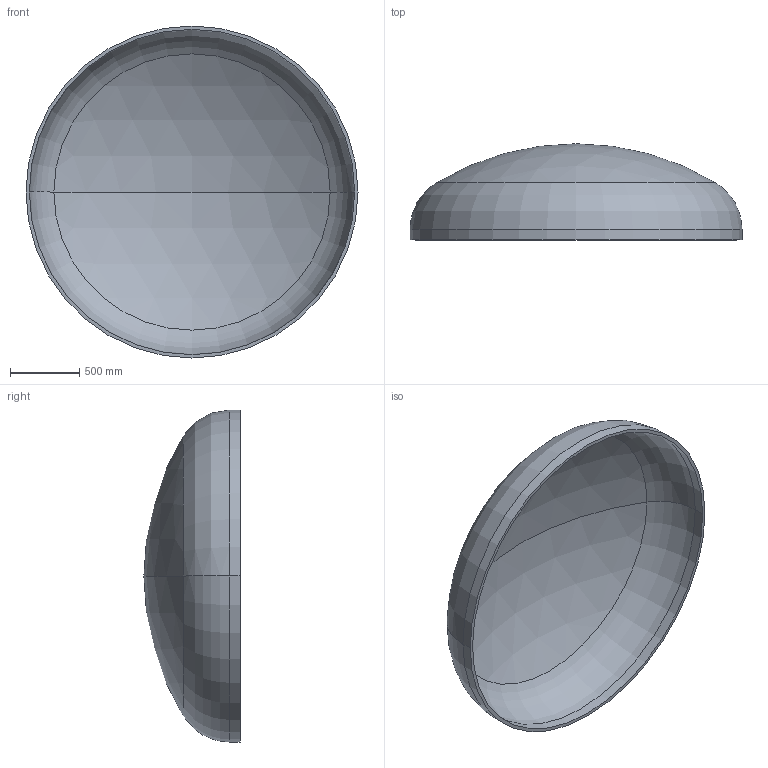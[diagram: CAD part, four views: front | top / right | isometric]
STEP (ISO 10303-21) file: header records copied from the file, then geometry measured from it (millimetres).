
FILE_DESCRIPTION (( 'STEP AP203' ), '1' );
FILE_NAME ('DIN 28013 Korbbogenform_-_Boden DIN 28013 - 2400 x 75 - I - s=24.step', '2016-07-01T15:12:06', ( '' ), ( '' ), 'SwSTEP 2.0', 'SolidWorks 2013', '' );
FILE_SCHEMA (( 'CONFIG_CONTROL_DESIGN' ));
Length unit declared in the file: millimetre
Products named in the file (1): DIN 28013 Korbbogenform_-_Boden DIN 28013 - 2400 x 75 - I - s=24
Bounding box: 2400 x 695.04 x 2400 mm (x, y, z)
Volume: 161864597.2 mm3; surface area: 13669064 mm2
Topology: 1 solids, 1 shells, 13 faces, 24 edges, 14 vertices
Faces by surface type: torus 4, cylinder 4, sphere 4, plane 1
Entity records: 407 total; most frequent: DIRECTION 72, CARTESIAN_POINT 52, ORIENTED_EDGE 48, AXIS2_PLACEMENT_3D 34, EDGE_CURVE 24, CIRCLE 20, EDGE_LOOP 14, VERTEX_POINT 14
